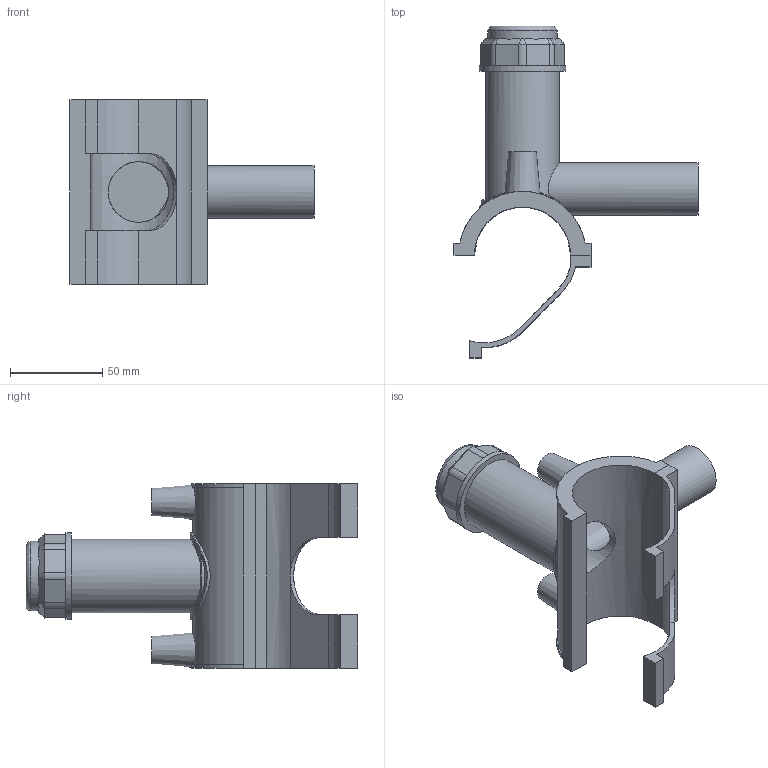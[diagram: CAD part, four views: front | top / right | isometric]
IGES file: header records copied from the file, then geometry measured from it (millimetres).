
Global section: file name: 5963BU03015010.ipt; native system: Autodesk Inventor 2019; preprocessor: unknown; author: KIM; date: 20210830.101441; units: millimetre
Bounding box: 132.08 x 179.59 x 100.08 mm (x, y, z)
Volume: 181037.7 mm3; surface area: 74449.2 mm2
Topology: 2 solids, 2 shells, 111 faces, 286 edges, 187 vertices
Faces by surface type: plane 66, cylinder 23, cone 11, revolution 10, bspline 1
Full cylindrical faces by diameter (mm): 4 x2, 28.45 x1, 37.512 x1, 39.856 x1, 46.89 x1
